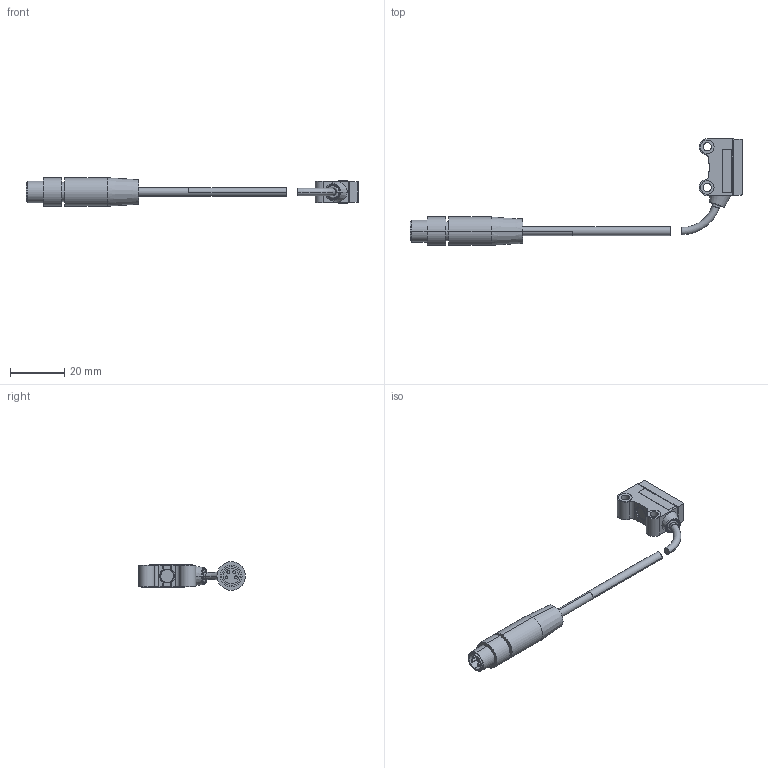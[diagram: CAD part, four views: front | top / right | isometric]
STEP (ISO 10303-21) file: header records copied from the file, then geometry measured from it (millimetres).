
FILE_DESCRIPTION((''),'2;1');
FILE_NAME('2037086','2026-06-29T06:51:25',('l.wegerer'),(''),'CREO PARAMETRIC BY PTC INC, 2019292','CREO PARAMETRIC BY PTC INC, 2019292','');
FILE_SCHEMA(('AUTOMOTIVE_DESIGN { 1 0 10303 214 1 1 1 1 }'));
Length unit declared in the file: millimetre
Products named in the file (1): 2037086
Bounding box: 122.33 x 39.37 x 10.5 mm (x, y, z)
Volume: 5895.5 mm3; surface area: 3762.3 mm2
Topology: 2 solids, 2 shells, 158 faces, 392 edges, 264 vertices
Faces by surface type: plane 72, cylinder 54, cone 14, torus 12, bspline 6
Entity records: 6360 total; most frequent: CARTESIAN_POINT 1130, DIRECTION 844, ORIENTED_EDGE 784, EDGE_CURVE 392, AXIS2_PLACEMENT_3D 327, VERTEX_POINT 264, VECTOR 190, LINE 190
